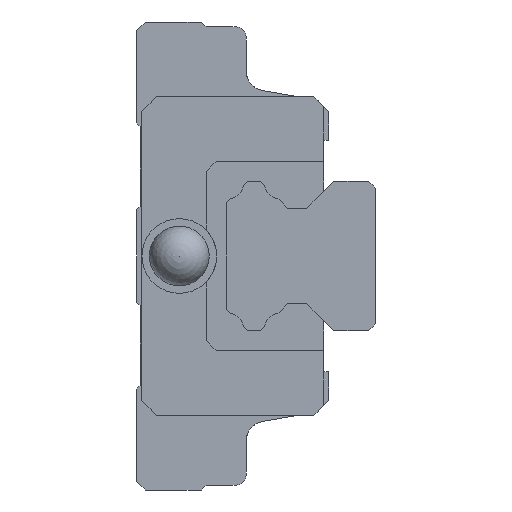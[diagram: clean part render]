
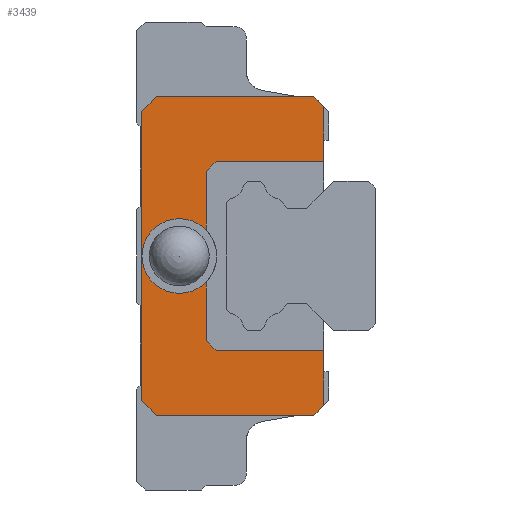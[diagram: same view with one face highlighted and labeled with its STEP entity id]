
A CAD part, left-side view. The second image highlights one B-rep face of the part: STEP entity #3439.
In plain terms, the highlighted planar face has unit normal (-1, 0, 0).
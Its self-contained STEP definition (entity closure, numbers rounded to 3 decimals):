
#115=CIRCLE('',#3728,2.);
#116=CIRCLE('',#3729,3.751);
#877=ORIENTED_EDGE('',*,*,#1512,.T.);
#878=ORIENTED_EDGE('',*,*,#1226,.T.);
#879=ORIENTED_EDGE('',*,*,#1513,.F.);
#880=ORIENTED_EDGE('',*,*,#1220,.T.);
#881=ORIENTED_EDGE('',*,*,#1514,.T.);
#882=ORIENTED_EDGE('',*,*,#1515,.T.);
#883=ORIENTED_EDGE('',*,*,#1343,.F.);
#884=ORIENTED_EDGE('',*,*,#1502,.T.);
#885=ORIENTED_EDGE('',*,*,#1246,.F.);
#886=ORIENTED_EDGE('',*,*,#1254,.F.);
#887=ORIENTED_EDGE('',*,*,#1329,.F.);
#888=ORIENTED_EDGE('',*,*,#1297,.F.);
#889=ORIENTED_EDGE('',*,*,#1279,.F.);
#890=ORIENTED_EDGE('',*,*,#1503,.T.);
#891=ORIENTED_EDGE('',*,*,#1349,.F.);
#892=ORIENTED_EDGE('',*,*,#1516,.T.);
#893=ORIENTED_EDGE('',*,*,#1517,.T.);
#1220=EDGE_CURVE('',#1670,#1671,#2004,.T.);
#1226=EDGE_CURVE('',#1677,#1676,#2010,.T.);
#1246=EDGE_CURVE('',#1696,#1697,#2028,.T.);
#1254=EDGE_CURVE('',#1703,#1696,#2036,.T.);
#1279=EDGE_CURVE('',#1723,#1721,#2061,.T.);
#1297=EDGE_CURVE('',#1721,#1741,#2077,.T.);
#1329=EDGE_CURVE('',#1741,#1703,#2109,.T.);
#1343=EDGE_CURVE('',#1771,#1772,#2123,.T.);
#1349=EDGE_CURVE('',#1777,#1778,#2129,.T.);
#1502=EDGE_CURVE('',#1771,#1697,#2238,.T.);
#1503=EDGE_CURVE('',#1723,#1778,#2239,.T.);
#1512=EDGE_CURVE('',#1877,#1877,#115,.T.);
#1513=EDGE_CURVE('',#1670,#1676,#116,.T.);
#1514=EDGE_CURVE('',#1671,#1878,#2246,.T.);
#1515=EDGE_CURVE('',#1878,#1772,#2247,.T.);
#1516=EDGE_CURVE('',#1777,#1879,#2248,.T.);
#1517=EDGE_CURVE('',#1879,#1677,#2249,.T.);
#1670=VERTEX_POINT('',#4949);
#1671=VERTEX_POINT('',#4950);
#1676=VERTEX_POINT('',#4961);
#1677=VERTEX_POINT('',#4963);
#1696=VERTEX_POINT('',#5003);
#1697=VERTEX_POINT('',#5005);
#1703=VERTEX_POINT('',#5019);
#1721=VERTEX_POINT('',#5065);
#1723=VERTEX_POINT('',#5069);
#1741=VERTEX_POINT('',#5108);
#1771=VERTEX_POINT('',#5192);
#1772=VERTEX_POINT('',#5194);
#1777=VERTEX_POINT('',#5205);
#1778=VERTEX_POINT('',#5207);
#1877=VERTEX_POINT('',#5572);
#1878=VERTEX_POINT('',#5575);
#1879=VERTEX_POINT('',#5578);
#2004=LINE('',#4948,#2384);
#2010=LINE('',#4962,#2390);
#2028=LINE('',#5004,#2408);
#2036=LINE('',#5020,#2416);
#2061=LINE('',#5070,#2441);
#2077=LINE('',#5107,#2457);
#2109=LINE('',#5167,#2489);
#2123=LINE('',#5193,#2503);
#2129=LINE('',#5206,#2509);
#2238=LINE('',#5553,#2618);
#2239=LINE('',#5555,#2619);
#2246=LINE('',#5574,#2626);
#2247=LINE('',#5576,#2627);
#2248=LINE('',#5577,#2628);
#2249=LINE('',#5579,#2629);
#2384=VECTOR('',#4004,1000.);
#2390=VECTOR('',#4012,1000.);
#2408=VECTOR('',#4038,1000.);
#2416=VECTOR('',#4048,1000.);
#2441=VECTOR('',#4083,1000.);
#2457=VECTOR('',#4107,1000.);
#2489=VECTOR('',#4153,1000.);
#2503=VECTOR('',#4171,1000.);
#2509=VECTOR('',#4179,1000.);
#2618=VECTOR('',#4492,1000.);
#2619=VECTOR('',#4495,1000.);
#2626=VECTOR('',#4518,1000.);
#2627=VECTOR('',#4519,1000.);
#2628=VECTOR('',#4520,1000.);
#2629=VECTOR('',#4521,1000.);
#2861=EDGE_LOOP('',(#877));
#2862=EDGE_LOOP('',(#878,#879,#880,#881,#882,#883,#884,#885,#886,#887,#888,
#889,#890,#891,#892,#893));
#3101=FACE_BOUND('',#2861,.T.);
#3102=FACE_BOUND('',#2862,.T.);
#3267=PLANE('',#3727);
#3439=ADVANCED_FACE('',(#3101,#3102),#3267,.F.);
#3727=AXIS2_PLACEMENT_3D('',#5570,#4512,#4513);
#3728=AXIS2_PLACEMENT_3D('',#5571,#4514,#4515);
#3729=AXIS2_PLACEMENT_3D('',#5573,#4516,#4517);
#4004=DIRECTION('',(0.,0.,1.));
#4012=DIRECTION('',(0.,0.,1.));
#4038=DIRECTION('',(0.,-1.,0.));
#4048=DIRECTION('',(0.,-0.707,0.707));
#4083=DIRECTION('',(0.,1.,0.));
#4107=DIRECTION('',(0.,0.707,0.707));
#4153=DIRECTION('',(0.,0.,1.));
#4171=DIRECTION('',(0.,0.,-1.));
#4179=DIRECTION('',(0.,0.,-1.));
#4492=DIRECTION('',(0.,0.707,0.707));
#4495=DIRECTION('',(0.,-0.707,0.707));
#4512=DIRECTION('',(1.,0.,0.));
#4513=DIRECTION('',(0.,0.,-1.));
#4514=DIRECTION('',(1.,0.,0.));
#4515=DIRECTION('',(0.,0.,-1.));
#4516=DIRECTION('',(1.,0.,0.));
#4517=DIRECTION('',(0.,0.,-1.));
#4518=DIRECTION('',(0.,-0.707,0.707));
#4519=DIRECTION('',(0.,-1.,0.));
#4520=DIRECTION('',(0.,1.,0.));
#4521=DIRECTION('',(0.,0.707,0.707));
#4948=CARTESIAN_POINT('',(-27.8,12.3,-8.5));
#4949=CARTESIAN_POINT('',(-27.8,12.3,2.604));
#4950=CARTESIAN_POINT('',(-27.8,12.3,8.5));
#4961=CARTESIAN_POINT('',(-27.8,12.3,-2.604));
#4962=CARTESIAN_POINT('',(-27.8,12.3,-8.5));
#4963=CARTESIAN_POINT('',(-27.8,12.3,-8.5));
#5003=CARTESIAN_POINT('',(-27.8,17.3,16.));
#5004=CARTESIAN_POINT('',(-27.8,19.3,16.));
#5005=CARTESIAN_POINT('',(-27.8,1.5,16.));
#5019=CARTESIAN_POINT('',(-27.8,18.8,14.5));
#5020=CARTESIAN_POINT('',(-27.8,18.8,14.5));
#5065=CARTESIAN_POINT('',(-27.8,17.3,-16.));
#5069=CARTESIAN_POINT('',(-27.8,1.5,-16.));
#5070=CARTESIAN_POINT('',(-27.8,0.,-16.));
#5107=CARTESIAN_POINT('',(-27.8,17.3,-16.));
#5108=CARTESIAN_POINT('',(-27.8,18.8,-14.5));
#5167=CARTESIAN_POINT('',(-27.8,18.8,-14.5));
#5192=CARTESIAN_POINT('',(-27.8,0.5,15.));
#5193=CARTESIAN_POINT('',(-27.8,0.5,11.6));
#5194=CARTESIAN_POINT('',(-27.8,0.5,9.5));
#5205=CARTESIAN_POINT('',(-27.8,0.5,-9.5));
#5206=CARTESIAN_POINT('',(-27.8,0.5,11.6));
#5207=CARTESIAN_POINT('',(-27.8,0.5,-15.));
#5553=CARTESIAN_POINT('',(-27.8,1.5,16.));
#5555=CARTESIAN_POINT('',(-27.8,0.5,-15.));
#5570=CARTESIAN_POINT('',(-27.8,0.,0.));
#5571=CARTESIAN_POINT('',(-27.8,15.,0.));
#5572=CARTESIAN_POINT('',(-27.8,15.,-2.));
#5573=CARTESIAN_POINT('',(-27.8,15.,0.));
#5574=CARTESIAN_POINT('',(-27.8,12.3,8.5));
#5575=CARTESIAN_POINT('',(-27.8,11.3,9.5));
#5576=CARTESIAN_POINT('',(-27.8,11.3,9.5));
#5577=CARTESIAN_POINT('',(-27.8,0.5,-9.5));
#5578=CARTESIAN_POINT('',(-27.8,11.3,-9.5));
#5579=CARTESIAN_POINT('',(-27.8,11.3,-9.5));
